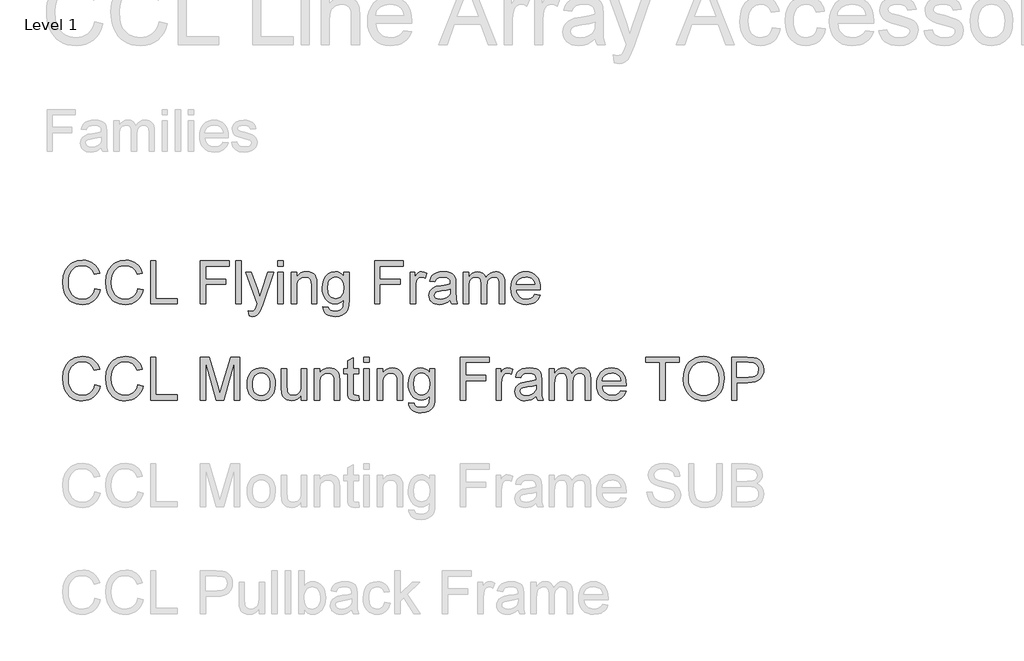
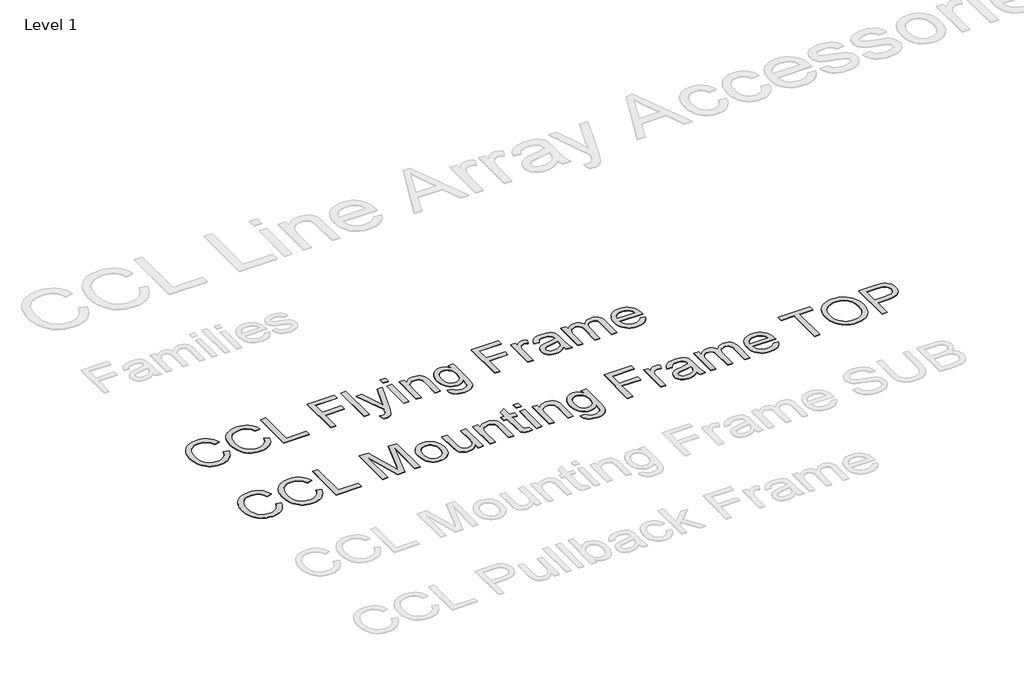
# One storey, part 5 of 31: 2 proxies.
"""IFC4 building model written with IfcOpenShell, lengths in millimetres."""

from ifc_helpers import new_model, si_unit, origin, origin_with_axes, place, context, project, spatial, polyline, outline, extrude, element, save

model = new_model("IFC4")

# Units and contexts
model_context = context("Model", 3, world=origin())
ifc_project = project(units=[si_unit("LENGTHUNIT", "METRE", prefix="MILLI")], contexts=[model_context])

# Site, building, storey
site = spatial("IfcSite", under=ifc_project)
building = spatial("IfcBuilding", under=site)
storey = spatial("IfcBuildingStorey", under=building, Name="Level 1", Elevation=0.0)

# Proxies
placement = place(None, origin())
element("IfcBuildingElementProxy", 1, Name="400mm Arial", ObjectType="400mm Arial", at=placement, inside=storey, context=model_context, shape_type="SweptSolid", body=[
    extrude(outline(polyline([(-20609.9461568, -14954.6815806), (-20559.7180017, -14967.6310268), (-20569.656947, -14998.8672739), (-20582.8945674, -15026.1610523), (-20599.4308631, -15049.5123619), (-20619.265834, -15068.9212029), (-20641.9518904, -15084.1791086), (-20667.0414425, -15095.0776127), (-20694.5344902, -15101.6167152), (-20724.4310337, -15103.796416), (-20755.0602755, -15102.1470784), (-20782.691279, -15097.1990655), (-20807.3240443, -15088.9523775), (-20828.9585713, -15077.4070142), (-20847.8922313, -15062.734654), (-20864.4223956, -15045.106975), (-20878.5490642, -15024.5239774), (-20890.2722371, -15000.9856611), (-20906.0543747, -14949.1142998), (-20911.3150873, -14893.5641185), (-20905.3676617, -14834.9727794), (-20897.9333797, -14808.6753481), (-20887.5253849, -14784.3767423), (-20874.3766693, -14762.4785666), (-20858.7202247, -14743.3824253), (-20840.5560512, -14727.0883186), (-20819.8841487, -14713.5962464), (-20797.4065588, -14703.0165734), (-20773.8253229, -14695.4596641), (-20723.3519132, -14689.4141366), (-20694.623395, -14691.3700426), (-20668.2799785, -14697.2377604), (-20644.3216636, -14707.0172901), (-20622.7484502, -14720.7086317), (-20603.9159578, -14737.9500345), (-20588.1798054, -14758.379748), (-20575.5399932, -14781.9977721), (-20565.9965211, -14808.8041068), (-20616.2246762, -14820.7725344), (-20633.6377573, -14784.1437504), (-20657.4274596, -14759.0174101), (-20687.8880888, -14744.4860713), (-20725.3139505, -14739.6422917), (-20768.4542458, -14745.0133688), (-20787.1365198, -14751.7272152), (-20803.8935447, -14761.1266002), (-20830.7857185, -14786.2897287), (-20848.2846387, -14818.8104971), (-20857.8863588, -14855.5741711), (-20861.0869322, -14893.4660166), (-20857.2977476, -14939.8681989), (-20845.930194, -14979.9918619), (-20826.5550756, -15012.3041638), (-20798.7431967, -15035.272263), (-20765.4008252, -15048.9942614), (-20729.4342288, -15053.5682609), (-20707.5973667, -15052.0108938), (-20687.5079441, -15047.3387925), (-20669.165961, -15039.5519569), (-20652.5714173, -15028.6503871), (-20638.1167206, -15014.683134), (-20626.1942783, -14997.6992486), (-20616.8040903, -14977.6987308), (-20609.9461568, -14954.6815806)])), origin_with_axes(), (0.0, 0.0, 1.0), 5.0),
    extrude(outline(polyline([(-20208.1209162, -14954.6815806), (-20157.8927611, -14967.6310268), (-20167.8317064, -14998.8672739), (-20181.0693268, -15026.1610523), (-20197.6056225, -15049.5123619), (-20217.4405934, -15068.9212029), (-20240.1266498, -15084.1791086), (-20265.2162019, -15095.0776127), (-20292.7092496, -15101.6167152), (-20322.6057931, -15103.796416), (-20353.2350349, -15102.1470784), (-20380.8660384, -15097.1990655), (-20405.4988037, -15088.9523775), (-20427.1333307, -15077.4070142), (-20446.0669907, -15062.734654), (-20462.597155, -15045.106975), (-20476.7238236, -15024.5239774), (-20488.4469965, -15000.9856611), (-20504.2291341, -14949.1142998), (-20509.4898467, -14893.5641185), (-20503.5424211, -14834.9727794), (-20496.1081391, -14808.6753481), (-20485.7001443, -14784.3767423), (-20472.5514287, -14762.4785666), (-20456.8949841, -14743.3824253), (-20438.7308106, -14727.0883186), (-20418.0589081, -14713.5962464), (-20395.5813182, -14703.0165734), (-20372.0000823, -14695.4596641), (-20321.5266726, -14689.4141366), (-20292.7981544, -14691.3700426), (-20266.4547379, -14697.2377604), (-20242.496423, -14707.0172901), (-20220.9232096, -14720.7086317), (-20202.0907172, -14737.9500345), (-20186.3545648, -14758.379748), (-20173.7147526, -14781.9977721), (-20164.1712805, -14808.8041068), (-20214.3994356, -14820.7725344), (-20231.8125167, -14784.1437504), (-20255.602219, -14759.0174101), (-20286.0628482, -14744.4860713), (-20323.4887099, -14739.6422917), (-20366.6290052, -14745.0133688), (-20385.3112792, -14751.7272152), (-20402.0683041, -14761.1266002), (-20428.9604779, -14786.2897287), (-20446.4593981, -14818.8104971), (-20456.0611182, -14855.5741711), (-20459.2616916, -14893.4660166), (-20455.472507, -14939.8681989), (-20444.1049534, -14979.9918619), (-20424.729835, -15012.3041638), (-20396.9179561, -15035.272263), (-20363.5755846, -15048.9942614), (-20327.6089882, -15053.5682609), (-20305.7721261, -15052.0108938), (-20285.6827035, -15047.3387925), (-20267.3407204, -15039.5519569), (-20250.7461767, -15028.6503871), (-20236.29148, -15014.683134), (-20224.3690377, -14997.6992486), (-20214.9788497, -14977.6987308), (-20208.1209162, -14954.6815806)])), origin_with_axes(), (0.0, 0.0, 1.0), 5.0),
    extrude(outline(polyline([(-20088.8290479, -15097.5178966), (-20088.8290479, -14695.692656), (-20038.6008928, -14695.692656), (-20038.6008928, -15047.2897415), (-19837.6882725, -15047.2897415), (-19837.6882725, -15097.5178966), (-20088.8290479, -15097.5178966)])), origin_with_axes(), (0.0, 0.0, 1.0), 5.0),
    extrude(outline(polyline([(-19624.2186135, -15097.5178966), (-19624.2186135, -14695.692656), (-19354.2422799, -14695.692656), (-19354.2422799, -14745.9208111), (-19573.9904584, -14745.9208111), (-19573.9904584, -14865.2126794), (-19385.6348769, -14865.2126794), (-19385.6348769, -14915.4408345), (-19573.9904584, -14915.4408345), (-19573.9904584, -15097.5178966), (-19624.2186135, -15097.5178966)])), origin_with_axes(), (0.0, 0.0, 1.0), 5.0),
    extrude(outline(polyline([(-19291.4570861, -15097.5178966), (-19291.4570861, -14695.692656), (-19241.228931, -14695.692656), (-19241.228931, -15097.5178966), (-19291.4570861, -15097.5178966)])), origin_with_axes(), (0.0, 0.0, 1.0), 5.0),
    extrude(outline(polyline([(-19165.8866984, -15210.5312455), (-19172.1652178, -15162.1670259), (-19146.6587328, -15166.5816098), (-19133.2433027, -15165.195921), (-19122.8199795, -15161.0388544), (-19108.2028016, -15145.5878106), (-19094.4685404, -15108.6034074), (-19090.5444658, -15096.4387761), (-19197.2792953, -14802.4274855), (-19144.4023899, -14802.4274855), (-19087.6995117, -14966.3557026), (-19067.9810368, -15031.8877487), (-19048.2625618, -14973.9095462), (-18990.0881556, -14802.4274855), (-18937.6036577, -14802.4274855), (-19040.3163107, -15104.5812309), (-19067.0000181, -15170.113277), (-19080.6607029, -15191.0334998), (-19096.1362721, -15205.5280504), (-19114.0889135, -15213.9893363), (-19135.1808145, -15216.8097649), (-19165.8866984, -15210.5312455)])), origin_with_axes(), (0.0, 0.0, 1.0), 5.0),
    extrude(outline(polyline([(-18895.9103649, -15097.5178966), (-18895.9103649, -14802.4274855), (-18845.6822098, -14802.4274855), (-18845.6822098, -15097.5178966), (-18895.9103649, -15097.5178966)])), origin_with_axes(), (0.0, 0.0, 1.0), 5.0),
    extrude(outline(polyline([(-18895.9103649, -14745.9208111), (-18895.9103649, -14695.692656), (-18845.6822098, -14695.692656), (-18845.6822098, -14745.9208111), (-18895.9103649, -14745.9208111)])), origin_with_axes(), (0.0, 0.0, 1.0), 5.0),
    extrude(outline(polyline([(-18770.3399772, -15097.5178966), (-18770.3399772, -14802.4274855), (-18720.1118221, -14802.4274855), (-18720.1118221, -14843.630269), (-18702.6619528, -14822.857199), (-18681.7049418, -14808.0192919), (-18657.2407891, -14799.1165476), (-18629.2694948, -14796.1489662), (-18604.5110365, -14798.5401991), (-18581.8372429, -14805.713898), (-18562.9281083, -14816.7748834), (-18549.4636273, -14830.8279756), (-18540.3278911, -14847.8363865), (-18534.4049909, -14867.7633279), (-18531.7562406, -14916.3237513), (-18531.7562406, -15097.5178966), (-18581.9843957, -15097.5178966), (-18581.9843957, -14923.09278), (-18583.4313982, -14897.1203111), (-18587.7724057, -14878.6526349), (-18595.7799705, -14865.4211459), (-18608.2266446, -14855.1572382), (-18624.1804605, -14848.5721505), (-18642.7094503, -14846.3771212), (-18672.1277472, -14851.30674), (-18697.2050365, -14866.0955962), (-18707.2267552, -14878.168257), (-18714.3851257, -14894.6677645), (-18718.680148, -14915.5941186), (-18720.1118221, -14940.9473195), (-18720.1118221, -15097.5178966), (-18770.3399772, -15097.5178966)])), origin_with_axes(), (0.0, 0.0, 1.0), 5.0),
    extrude(outline(polyline([(-18475.2495661, -15122.6319741), (-18425.021411, -15128.9104935), (-18419.4786557, -15144.606792), (-18408.7365014, -15155.3979972), (-18387.6200749, -15163.7857067), (-18359.9798743, -15166.5816098), (-18330.5002638, -15163.4178247), (-18308.5744968, -15153.9264692), (-18293.3687077, -15138.7206801), (-18284.0490305, -15118.4135939), (-18280.6154652, -15059.8467803), (-18297.3295705, -15076.3278937), (-18315.9811877, -15088.1001175), (-18336.5703167, -15095.1634518), (-18359.0969575, -15097.5178966), (-18386.6359905, -15094.7771757), (-18410.8824797, -15086.5550132), (-18431.836425, -15072.8514088), (-18449.4978265, -15053.6663628), (-18463.5110648, -15030.6492126), (-18473.5205207, -15005.4492959), (-18479.5261943, -14978.0666128), (-18481.5280855, -14948.5011631), (-18477.9351047, -14907.9483045), (-18467.1561622, -14870.6573329), (-18449.5714029, -14839.0562695), (-18425.5609713, -14815.5731355), (-18395.9464707, -14801.0050085), (-18361.5495041, -14796.1489662), (-18338.0602388, -14798.8958184), (-18316.7414771, -14807.1363751), (-18297.5932193, -14820.8706362), (-18280.6154652, -14840.0986019), (-18280.6154652, -14802.4274855), (-18230.3873101, -14802.4274855), (-18230.3873101, -15057.1980299), (-18233.8208754, -15116.022361), (-18244.1215713, -15154.7603351), (-18261.8657462, -15180.4507611), (-18287.6297486, -15200.1324478), (-18320.8494927, -15212.6404356), (-18360.960893, -15216.8097649), (-18385.5691327, -15215.3413026), (-18407.6941691, -15210.9359157), (-18427.3360019, -15203.5936042), (-18444.4946313, -15193.3143682), (-18458.3545855, -15180.0859447), (-18468.1003927, -15163.8960713), (-18473.7320529, -15144.7447477), (-18475.2495661, -15122.6319741)]), holes=[polyline([(-18431.2999304, -14945.0675978), (-18425.941116, -14991.1386863), (-18419.242598, -15008.7755623), (-18409.8646728, -15022.8133261), (-18398.4633967, -15033.5217579), (-18385.6948258, -15041.1706377), (-18371.5589601, -15045.7599656), (-18356.0557997, -15047.2897415), (-18340.7059234, -15045.7691626), (-18326.6375028, -15041.2074259), (-18313.8505378, -15033.6045313), (-18302.3450284, -15022.9604789), (-18292.8383445, -15009.0606709), (-18286.047856, -14991.6905093), (-18280.6154652, -14946.5391258), (-18286.2072715, -14902.9941603), (-18293.1970294, -14885.7926113), (-18302.9826905, -14871.6383516), (-18314.7365203, -14860.5865633), (-18327.6307842, -14852.6924288), (-18341.6654823, -14847.9559481), (-18356.8406146, -14846.3771212), (-18371.7612952, -14847.9314227), (-18385.5231475, -14852.594327), (-18409.5703672, -14871.2459441), (-18419.0770511, -14885.185606), (-18425.8675396, -14902.135769), (-18431.2999304, -14945.0675978)])]), origin_with_axes(), (0.0, 0.0, 1.0), 5.0),
    extrude(outline(polyline([(-17991.8035735, -15097.5178966), (-17991.8035735, -14695.692656), (-17721.82724, -14695.692656), (-17721.82724, -14745.9208111), (-17941.5754185, -14745.9208111), (-17941.5754185, -14865.2126794), (-17753.2198369, -14865.2126794), (-17753.2198369, -14915.4408345), (-17941.5754185, -14915.4408345), (-17941.5754185, -15097.5178966), (-17991.8035735, -15097.5178966)])), origin_with_axes(), (0.0, 0.0, 1.0), 5.0),
    extrude(outline(polyline([(-17659.0420462, -15097.5178966), (-17659.0420462, -14802.4274855), (-17615.0924105, -14802.4274855), (-17615.0924105, -14846.0828156), (-17598.8565517, -14820.7725344), (-17583.8960173, -14805.8610508), (-17568.8864319, -14798.5769873), (-17552.5034204, -14796.1489662), (-17527.4874447, -14800.0239898), (-17502.0790615, -14811.6490609), (-17518.8544805, -14856.6778171), (-17536.5128163, -14848.9522952), (-17554.1711521, -14846.3771212), (-17569.1684747, -14848.8541933), (-17582.5716421, -14856.2854096), (-17593.3996355, -14868.1066844), (-17600.6714363, -14883.7539319), (-17606.7782774, -14911.8110654), (-17608.8138911, -14942.4188474), (-17608.8138911, -15097.5178966), (-17659.0420462, -15097.5178966)])), origin_with_axes(), (0.0, 0.0, 1.0), 5.0),
    extrude(outline(polyline([(-17282.3308831, -15059.8467803), (-17306.3290519, -15080.4236466), (-17331.0384593, -15093.8881276), (-17357.0231908, -15101.3193439), (-17384.8473324, -15103.796416), (-17407.211492, -15102.3064939), (-17426.8226681, -15097.8367277), (-17443.6808605, -15090.3871173), (-17457.7860693, -15079.9576627), (-17468.9236967, -15067.2105516), (-17476.8791449, -15052.8079715), (-17481.6524138, -15036.7499224), (-17483.2435034, -15019.0364043), (-17480.8400077, -14998.2142834), (-17473.6295206, -14979.3051488), (-17462.5072216, -14963.118341), (-17448.3682903, -14950.4632004), (-17431.7522868, -14940.8982685), (-17413.1987715, -14933.982087), (-17369.7396451, -14926.4282434), (-17318.3833186, -14918.4819923), (-17282.6251887, -14909.1623151), (-17282.3308831, -14897.9787024), (-17285.7889739, -14875.5624262), (-17296.1632461, -14860.8961973), (-17319.3643373, -14850.0068903), (-17351.6889019, -14846.3771212), (-17381.6099709, -14848.7928797), (-17402.5056682, -14856.040155), (-17416.7549641, -14869.4433223), (-17426.7368289, -14890.3267569), (-17476.964984, -14884.0482375), (-17468.2461807, -14856.5797152), (-17455.2354208, -14834.9973049), (-17436.7186937, -14818.491666), (-17411.4819889, -14806.2534583), (-17380.6166895, -14798.6750892), (-17345.2141788, -14796.1489662), (-17311.2586706, -14798.3807836), (-17284.3419713, -14805.0762359), (-17264.0471479, -14815.1439398), (-17249.9572675, -14827.4925121), (-17240.6130648, -14842.7596149), (-17234.5552747, -14861.5829104), (-17232.102728, -14905.5325461), (-17232.102728, -14968.0234343), (-17229.5520795, -15055.2850436), (-17219.5456893, -15097.5178966), (-17269.7738443, -15097.5178966), (-17277.8181973, -15080.0557646), (-17282.3308831, -15059.8467803)]), holes=[polyline([(-17282.3308831, -14959.3904702), (-17316.0779248, -14967.7536542), (-17363.3630239, -14974.792463), (-17406.5768956, -14982.9349178), (-17417.8218219, -14988.5021987), (-17426.1482177, -14996.1786697), (-17431.2985657, -15005.3757195), (-17433.0153483, -15015.5047372), (-17429.2752147, -15030.4407462), (-17418.0548138, -15042.6789539), (-17399.5994004, -15050.8459342), (-17374.1542291, -15053.5682609), (-17347.1762161, -15050.5638913), (-17323.3374628, -15041.5507824), (-17304.0113953, -15028.2702424), (-17290.5714398, -15012.4635793), (-17284.6117515, -14996.1786697), (-17282.6251887, -14973.6152406), (-17282.3308831, -14959.3904702)])]), origin_with_axes(), (0.0, 0.0, 1.0), 5.0),
    extrude(outline(polyline([(-17163.0390148, -15097.5178966), (-17163.0390148, -14802.4274855), (-17112.8108597, -14802.4274855), (-17112.8108597, -14850.9879089), (-17097.7031724, -14828.6819973), (-17078.2790031, -14811.2076025), (-17055.2005393, -14799.9136252), (-17029.1299685, -14796.1489662), (-17001.1954624, -14799.9872016), (-16978.8037116, -14811.5019081), (-16962.0773436, -14829.9327961), (-16951.1389856, -14854.5195761), (-16932.8307249, -14828.9824342), (-16911.9472904, -14810.7416186), (-16888.4886818, -14799.7971293), (-16862.4548993, -14796.1489662), (-16842.3470825, -14797.6664794), (-16824.6979438, -14802.2190191), (-16809.5074831, -14809.8065852), (-16796.7757004, -14820.4291778), (-16786.7110621, -14834.2094242), (-16779.5220348, -14851.2699518), (-16775.2086184, -14871.6107604), (-16773.770813, -14895.2318502), (-16773.770813, -15097.5178966), (-16823.998968, -15097.5178966), (-16823.998968, -14916.8142606), (-16825.1639277, -14891.7614967), (-16828.6588066, -14874.8757131), (-16835.2071062, -14863.3119557), (-16845.5323275, -14854.2252705), (-16858.8128675, -14848.3391585), (-16874.2271231, -14846.3771212), (-16901.438128, -14851.4048418), (-16923.6214123, -14866.4880036), (-16932.2267853, -14878.0578924), (-16938.3734803, -14892.6566762), (-16943.2908363, -14930.9409292), (-16943.2908363, -15097.5178966), (-16993.5189914, -15097.5178966), (-16993.5189914, -14911.2224543), (-16996.4252592, -14882.8219642), (-17005.1440625, -14862.563929), (-17020.4847417, -14850.4238232), (-17043.2566372, -14846.3771212), (-17062.6072301, -14849.0749225), (-17080.4372441, -14857.1683264), (-17095.1525239, -14870.4611292), (-17105.1589142, -14888.7571271), (-17110.8978733, -14914.1409847), (-17112.8108597, -14948.6973668), (-17112.8108597, -15097.5178966), (-17163.0390148, -15097.5178966)])), origin_with_axes(), (0.0, 0.0, 1.0), 5.0),
    extrude(outline(polyline([(-16491.8260519, -15009.6186252), (-16442.5789154, -15015.8971446), (-16450.1296934, -15035.6217509), (-16460.3230903, -15053.0041752), (-16473.1591063, -15068.0444174), (-16488.6377412, -15080.7424776), (-16506.5995796, -15090.8285757), (-16526.885206, -15098.0329314), (-16574.4278225, -15103.796416), (-16605.5935589, -15101.3101468), (-16633.3625181, -15093.8513394), (-16657.7347003, -15081.4199936), (-16678.7101054, -15064.0161096), (-16695.5774949, -15042.1240652), (-16707.6256302, -15016.2282384), (-16714.8545114, -14986.3286292), (-16717.2641385, -14952.4252377), (-16714.829986, -14917.3722149), (-16707.5275284, -14886.4762587), (-16695.3567657, -14859.737369), (-16678.3176979, -14837.1555459), (-16657.3974752, -14819.2151673), (-16633.5832473, -14806.4006111), (-16606.8750145, -14798.7118774), (-16577.2727766, -14796.1489662), (-16548.6239662, -14798.705746), (-16522.7158767, -14806.3760856), (-16499.5485081, -14819.159985), (-16479.1218603, -14837.057444), (-16462.4476089, -14859.5902162), (-16450.5374293, -14886.280055), (-16443.3913215, -14917.1269603), (-16441.0092856, -14952.1309321), (-16441.3035912, -14965.6689895), (-16667.0359834, -14965.6689895), (-16664.12665, -14985.7124269), (-16658.3417056, -15003.2665294), (-16649.6811503, -15018.3312971), (-16638.1449841, -15030.90673), (-16624.370869, -15040.8211498), (-16608.9964673, -15047.9028782), (-16573.4468039, -15053.5682609), (-16546.7140455, -15050.944036), (-16524.1996674, -15043.0713613), (-16505.9036695, -15029.4597275), (-16491.8260519, -15009.6186252)]), holes=[polyline([(-16667.0359834, -14915.4408345), (-16491.2374407, -14915.4408345), (-16498.0309948, -14888.9042799), (-16511.3483231, -14869.9215689), (-16525.045796, -14859.6208731), (-16540.6317299, -14852.2632332), (-16558.1061247, -14847.8486492), (-16577.4689803, -14846.3771212), (-16611.3263866, -14851.073748), (-16639.3222065, -14865.1636285), (-16658.783164, -14887.1261836), (-16667.0359834, -14915.4408345)])]), origin_with_axes(), (0.0, 0.0, 1.0), 5.0),
])
element("IfcBuildingElementProxy", 2, Name="400mm Arial", ObjectType="400mm Arial", at=placement, inside=storey, context=model_context, shape_type="SweptSolid", body=[
    extrude(outline(polyline([(-20609.9461568, -15854.6815806), (-20559.7180017, -15867.6310268), (-20569.656947, -15898.8672739), (-20582.8945674, -15926.1610523), (-20599.4308631, -15949.5123619), (-20619.265834, -15968.9212029), (-20641.9518904, -15984.1791086), (-20667.0414425, -15995.0776127), (-20694.5344902, -16001.6167152), (-20724.4310337, -16003.796416), (-20755.0602755, -16002.1470784), (-20782.691279, -15997.1990655), (-20807.3240443, -15988.9523775), (-20828.9585713, -15977.4070142), (-20847.8922313, -15962.734654), (-20864.4223956, -15945.106975), (-20878.5490642, -15924.5239774), (-20890.2722371, -15900.9856611), (-20906.0543747, -15849.1142998), (-20911.3150873, -15793.5641185), (-20905.3676617, -15734.9727794), (-20897.9333797, -15708.6753481), (-20887.5253849, -15684.3767423), (-20874.3766693, -15662.4785666), (-20858.7202247, -15643.3824253), (-20840.5560512, -15627.0883186), (-20819.8841487, -15613.5962464), (-20797.4065588, -15603.0165734), (-20773.8253229, -15595.4596641), (-20723.3519132, -15589.4141366), (-20694.623395, -15591.3700426), (-20668.2799785, -15597.2377604), (-20644.3216636, -15607.0172901), (-20622.7484502, -15620.7086317), (-20603.9159578, -15637.9500345), (-20588.1798054, -15658.379748), (-20575.5399932, -15681.9977721), (-20565.9965211, -15708.8041068), (-20616.2246762, -15720.7725344), (-20633.6377573, -15684.1437504), (-20657.4274596, -15659.0174101), (-20687.8880888, -15644.4860713), (-20725.3139505, -15639.6422917), (-20768.4542458, -15645.0133688), (-20787.1365198, -15651.7272152), (-20803.8935447, -15661.1266002), (-20830.7857185, -15686.2897287), (-20848.2846387, -15718.8104971), (-20857.8863588, -15755.5741711), (-20861.0869322, -15793.4660166), (-20857.2977476, -15839.8681989), (-20845.930194, -15879.9918619), (-20826.5550756, -15912.3041638), (-20798.7431967, -15935.272263), (-20765.4008252, -15948.9942614), (-20729.4342288, -15953.5682609), (-20707.5973667, -15952.0108938), (-20687.5079441, -15947.3387925), (-20669.165961, -15939.5519569), (-20652.5714173, -15928.6503871), (-20638.1167206, -15914.683134), (-20626.1942783, -15897.6992486), (-20616.8040903, -15877.6987308), (-20609.9461568, -15854.6815806)])), origin_with_axes(), (0.0, 0.0, 1.0), 5.0),
    extrude(outline(polyline([(-20208.1209162, -15854.6815806), (-20157.8927611, -15867.6310268), (-20167.8317064, -15898.8672739), (-20181.0693268, -15926.1610523), (-20197.6056225, -15949.5123619), (-20217.4405934, -15968.9212029), (-20240.1266498, -15984.1791086), (-20265.2162019, -15995.0776127), (-20292.7092496, -16001.6167152), (-20322.6057931, -16003.796416), (-20353.2350349, -16002.1470784), (-20380.8660384, -15997.1990655), (-20405.4988037, -15988.9523775), (-20427.1333307, -15977.4070142), (-20446.0669907, -15962.734654), (-20462.597155, -15945.106975), (-20476.7238236, -15924.5239774), (-20488.4469965, -15900.9856611), (-20504.2291341, -15849.1142998), (-20509.4898467, -15793.5641185), (-20503.5424211, -15734.9727794), (-20496.1081391, -15708.6753481), (-20485.7001443, -15684.3767423), (-20472.5514287, -15662.4785666), (-20456.8949841, -15643.3824253), (-20438.7308106, -15627.0883186), (-20418.0589081, -15613.5962464), (-20395.5813182, -15603.0165734), (-20372.0000823, -15595.4596641), (-20321.5266726, -15589.4141366), (-20292.7981544, -15591.3700426), (-20266.4547379, -15597.2377604), (-20242.496423, -15607.0172901), (-20220.9232096, -15620.7086317), (-20202.0907172, -15637.9500345), (-20186.3545648, -15658.379748), (-20173.7147526, -15681.9977721), (-20164.1712805, -15708.8041068), (-20214.3994356, -15720.7725344), (-20231.8125167, -15684.1437504), (-20255.602219, -15659.0174101), (-20286.0628482, -15644.4860713), (-20323.4887099, -15639.6422917), (-20366.6290052, -15645.0133688), (-20385.3112792, -15651.7272152), (-20402.0683041, -15661.1266002), (-20428.9604779, -15686.2897287), (-20446.4593981, -15718.8104971), (-20456.0611182, -15755.5741711), (-20459.2616916, -15793.4660166), (-20455.472507, -15839.8681989), (-20444.1049534, -15879.9918619), (-20424.729835, -15912.3041638), (-20396.9179561, -15935.272263), (-20363.5755846, -15948.9942614), (-20327.6089882, -15953.5682609), (-20305.7721261, -15952.0108938), (-20285.6827035, -15947.3387925), (-20267.3407204, -15939.5519569), (-20250.7461767, -15928.6503871), (-20236.29148, -15914.683134), (-20224.3690377, -15897.6992486), (-20214.9788497, -15877.6987308), (-20208.1209162, -15854.6815806)])), origin_with_axes(), (0.0, 0.0, 1.0), 5.0),
    extrude(outline(polyline([(-20088.8290479, -15997.5178966), (-20088.8290479, -15595.692656), (-20038.6008928, -15595.692656), (-20038.6008928, -15947.2897415), (-19837.6882725, -15947.2897415), (-19837.6882725, -15997.5178966), (-20088.8290479, -15997.5178966)])), origin_with_axes(), (0.0, 0.0, 1.0), 5.0),
    extrude(outline(polyline([(-19624.2186135, -15997.5178966), (-19624.2186135, -15595.692656), (-19538.0851757, -15595.692656), (-19455.6796087, -15878.9127414), (-19439.0022916, -15938.0681662), (-19421.0496503, -15874.0076481), (-19340.2137132, -15595.692656), (-19253.7859698, -15595.692656), (-19253.7859698, -15997.5178966), (-19304.0141249, -15997.5178966), (-19304.0141249, -15645.9208111), (-19404.9609443, -15997.5178966), (-19472.945537, -15997.5178966), (-19573.9904584, -15645.9208111), (-19573.9904584, -15997.5178966), (-19624.2186135, -15997.5178966)])), origin_with_axes(), (0.0, 0.0, 1.0), 5.0),
    extrude(outline(polyline([(-19184.7222566, -15849.9726911), (-19182.0060612, -15811.7558831), (-19173.857475, -15778.8243132), (-19160.276498, -15751.1779813), (-19141.2631302, -15728.8168873), (-19122.1210037, -15714.5246718), (-19100.9923145, -15704.3159465), (-19077.8770624, -15698.1907112), (-19052.7752476, -15696.1489662), (-19025.0645363, -15698.6352353), (-19000.0087068, -15706.0940428), (-18977.607759, -15718.5253885), (-18957.8616929, -15735.9292726), (-18941.7453958, -15757.7170837), (-18930.233755, -15783.3002108), (-18923.3267706, -15812.6786538), (-18921.0244424, -15845.8524127), (-18925.0956698, -15896.5956026), (-18937.3093521, -15935.2232121), (-18957.3098699, -15964.1509996), (-18984.741604, -15985.7947237), (-19017.323686, -15999.2959929), (-19052.7752476, -16003.796416), (-19080.8906291, -16001.3193439), (-19106.1794506, -15993.8881276), (-19128.6417121, -15981.5027671), (-19148.2774136, -15964.1632624), (-19164.2220324, -15942.1639191), (-19175.6110458, -15915.7990427), (-19182.4444539, -15885.0686334), (-19184.7222566, -15849.9726911)]), holes=[polyline([(-19134.4941015, -15849.8745892), (-19133.0409676, -15874.2375743), (-19128.681566, -15895.3325411), (-19121.4158966, -15913.1594894), (-19111.2439594, -15927.7184194), (-19098.8708616, -15939.0277251), (-19085.0017104, -15947.1058005), (-19069.6365057, -15951.9526458), (-19052.7752476, -15953.5682609), (-19035.9998286, -15951.9434488), (-19020.6959376, -15947.0690123), (-19006.8635746, -15938.9449516), (-18994.5027396, -15927.5712666), (-18984.3308024, -15912.8682495), (-18977.065133, -15894.7561926), (-18972.7057314, -15873.2350959), (-18971.2525975, -15848.3049594), (-18972.7149284, -15824.7145264), (-18977.1019212, -15804.1713827), (-18984.4135759, -15786.6755281), (-18994.6498924, -15772.2269628), (-19007.0567127, -15760.9176571), (-19020.8798786, -15752.8395816), (-19036.1193903, -15747.9927363), (-19052.7752476, -15746.3771212), (-19069.6365057, -15747.986605), (-19085.0017104, -15752.8150561), (-19098.8708616, -15760.8624748), (-19111.2439594, -15772.1288609), (-19121.4158966, -15786.6448713), (-19128.681566, -15804.4411628), (-19133.0409676, -15825.5177354), (-19134.4941015, -15849.8745892)])]), origin_with_axes(), (0.0, 0.0, 1.0), 5.0),
    extrude(outline(polyline([(-18676.1621864, -15997.5178966), (-18676.1621864, -15946.7992322), (-18694.335557, -15971.7355001), (-18715.5010344, -15989.54712), (-18739.6586188, -16000.234092), (-18766.80831, -16003.796416), (-18791.2724627, -16001.2948184), (-18814.0443582, -15993.7900257), (-18833.1496965, -15982.5083112), (-18846.6141775, -15968.6759482), (-18855.6763373, -15951.8760037), (-18861.574712, -15931.6915449), (-18864.517768, -15884.995057), (-18864.517768, -15702.4274855), (-18814.2896129, -15702.4274855), (-18814.2896129, -15861.3525075), (-18811.2484551, -15912.5616812), (-18803.9276033, -15929.6436685), (-18791.3828273, -15942.6299029), (-18774.4479928, -15950.8336714), (-18753.9569657, -15953.5682609), (-18732.2887162, -15950.7723578), (-18712.0184182, -15942.3846483), (-18695.3043129, -15929.1776846), (-18684.3046412, -15911.9240191), (-18678.1978001, -15888.2937322), (-18676.1621864, -15855.9569049), (-18676.1621864, -15702.4274855), (-18625.9340313, -15702.4274855), (-18625.9340313, -15997.5178966), (-18676.1621864, -15997.5178966)])), origin_with_axes(), (0.0, 0.0, 1.0), 5.0),
    extrude(outline(polyline([(-18556.8703181, -15997.5178966), (-18556.8703181, -15702.4274855), (-18506.642163, -15702.4274855), (-18506.642163, -15743.630269), (-18489.1922937, -15722.857199), (-18468.2352827, -15708.0192919), (-18443.7711301, -15699.1165476), (-18415.7998357, -15696.1489662), (-18391.0413774, -15698.5401991), (-18368.3675838, -15705.713898), (-18349.4584492, -15716.7748834), (-18335.9939682, -15730.8279756), (-18326.858232, -15747.8363865), (-18320.9353319, -15767.7633279), (-18318.2865815, -15816.3237513), (-18318.2865815, -15997.5178966), (-18368.5147366, -15997.5178966), (-18368.5147366, -15823.09278), (-18369.9617391, -15797.1203111), (-18374.3027466, -15778.6526349), (-18382.3103114, -15765.4211459), (-18394.7569856, -15755.1572382), (-18410.7108014, -15748.5721505), (-18429.2397913, -15746.3771212), (-18458.6580881, -15751.30674), (-18483.7353775, -15766.0955962), (-18493.7570962, -15778.168257), (-18500.9154667, -15794.6677645), (-18505.2104889, -15815.5941186), (-18506.642163, -15840.9473195), (-18506.642163, -15997.5178966), (-18556.8703181, -15997.5178966)])), origin_with_axes(), (0.0, 0.0, 1.0), 5.0),
    extrude(outline(polyline([(-18142.4880388, -15955.6284001), (-18136.2095194, -15998.9894246), (-18173.7825338, -16003.796416), (-18197.8910672, -16001.7117514), (-18215.8682341, -15995.4577574), (-18228.5724256, -15985.8192492), (-18236.8620332, -15973.5810415), (-18241.42377, -15952.5627168), (-18242.9443489, -15916.5838577), (-18242.9443489, -15752.6556406), (-18280.6154652, -15752.6556406), (-18280.6154652, -15702.4274855), (-18242.9443489, -15702.4274855), (-18242.9443489, -15630.715022), (-18192.7161938, -15601.1863605), (-18192.7161938, -15702.4274855), (-18142.4880388, -15702.4274855), (-18142.4880388, -15752.6556406), (-18192.7161938, -15752.6556406), (-18192.7161938, -15915.1123297), (-18190.0674435, -15941.0112221), (-18181.4835302, -15950.1837466), (-18164.3647547, -15953.5682609), (-18142.4880388, -15955.6284001)])), origin_with_axes(), (0.0, 0.0, 1.0), 5.0),
    extrude(outline(polyline([(-18092.2598837, -15997.5178966), (-18092.2598837, -15702.4274855), (-18042.0317286, -15702.4274855), (-18042.0317286, -15997.5178966), (-18092.2598837, -15997.5178966)])), origin_with_axes(), (0.0, 0.0, 1.0), 5.0),
    extrude(outline(polyline([(-18092.2598837, -15645.9208111), (-18092.2598837, -15595.692656), (-18042.0317286, -15595.692656), (-18042.0317286, -15645.9208111), (-18092.2598837, -15645.9208111)])), origin_with_axes(), (0.0, 0.0, 1.0), 5.0),
    extrude(outline(polyline([(-17966.689496, -15997.5178966), (-17966.689496, -15702.4274855), (-17916.4613409, -15702.4274855), (-17916.4613409, -15743.630269), (-17899.0114716, -15722.857199), (-17878.0544606, -15708.0192919), (-17853.5903079, -15699.1165476), (-17825.6190136, -15696.1489662), (-17800.8605553, -15698.5401991), (-17778.1867617, -15705.713898), (-17759.2776271, -15716.7748834), (-17745.8131461, -15730.8279756), (-17736.6774099, -15747.8363865), (-17730.7545097, -15767.7633279), (-17728.1057594, -15816.3237513), (-17728.1057594, -15997.5178966), (-17778.3339145, -15997.5178966), (-17778.3339145, -15823.09278), (-17779.780917, -15797.1203111), (-17784.1219245, -15778.6526349), (-17792.1294893, -15765.4211459), (-17804.5761634, -15755.1572382), (-17820.5299793, -15748.5721505), (-17839.0589691, -15746.3771212), (-17868.477266, -15751.30674), (-17893.5545553, -15766.0955962), (-17903.576274, -15778.168257), (-17910.7346445, -15794.6677645), (-17915.0296668, -15815.5941186), (-17916.4613409, -15840.9473195), (-17916.4613409, -15997.5178966), (-17966.689496, -15997.5178966)])), origin_with_axes(), (0.0, 0.0, 1.0), 5.0),
    extrude(outline(polyline([(-17671.5990849, -16022.6319741), (-17621.3709299, -16028.9104935), (-17615.8281745, -16044.606792), (-17605.0860202, -16055.3979972), (-17583.9695937, -16063.7857067), (-17556.3293931, -16066.5816098), (-17526.8497826, -16063.4178247), (-17504.9240156, -16053.9264692), (-17489.7182265, -16038.7206801), (-17480.3985493, -16018.4135939), (-17476.964984, -15959.8467803), (-17493.6790893, -15976.3278937), (-17512.3307065, -15988.1001175), (-17532.9198355, -15995.1634518), (-17555.4464763, -15997.5178966), (-17582.9855093, -15994.7771757), (-17607.2319985, -15986.5550132), (-17628.1859438, -15972.8514088), (-17645.8473453, -15953.6663628), (-17659.8605836, -15930.6492126), (-17669.8700395, -15905.4492959), (-17675.8757131, -15878.0666128), (-17677.8776043, -15848.5011631), (-17674.2846235, -15807.9483045), (-17663.505681, -15770.6573329), (-17645.9209217, -15739.0562695), (-17621.9104901, -15715.5731355), (-17592.2959895, -15701.0050085), (-17557.8990229, -15696.1489662), (-17534.4097576, -15698.8958184), (-17513.0909959, -15707.1363751), (-17493.9427381, -15720.8706362), (-17476.964984, -15740.0986019), (-17476.964984, -15702.4274855), (-17426.7368289, -15702.4274855), (-17426.7368289, -15957.1980299), (-17430.1703942, -16016.022361), (-17440.4710901, -16054.7603351), (-17458.215265, -16080.4507611), (-17483.9792674, -16100.1324478), (-17517.1990115, -16112.6404356), (-17557.3104118, -16116.8097649), (-17581.9186516, -16115.3413026), (-17604.0436879, -16110.9359157), (-17623.6855207, -16103.5936042), (-17640.8441501, -16093.3143682), (-17654.7041043, -16080.0859447), (-17664.4499115, -16063.8960713), (-17670.0815717, -16044.7447477), (-17671.5990849, -16022.6319741)]), holes=[polyline([(-17627.6494492, -15845.0675978), (-17622.2906348, -15891.1386863), (-17615.5921168, -15908.7755623), (-17606.2141916, -15922.8133261), (-17594.8129155, -15933.5217579), (-17582.0443446, -15941.1706377), (-17567.9084789, -15945.7599656), (-17552.4053185, -15947.2897415), (-17537.0554422, -15945.7691626), (-17522.9870216, -15941.2074259), (-17510.2000566, -15933.6045313), (-17498.6945472, -15922.9604789), (-17489.1878633, -15909.0606709), (-17482.3973748, -15891.6905093), (-17476.964984, -15846.5391258), (-17482.5567903, -15802.9941603), (-17489.5465482, -15785.7926113), (-17499.3322093, -15771.6383516), (-17511.0860391, -15760.5865633), (-17523.980303, -15752.6924288), (-17538.0150011, -15747.9559481), (-17553.1901334, -15746.3771212), (-17568.110814, -15747.9314227), (-17581.8726663, -15752.594327), (-17605.9198861, -15771.2459441), (-17615.4265699, -15785.185606), (-17622.2170584, -15802.135769), (-17627.6494492, -15845.0675978)])]), origin_with_axes(), (0.0, 0.0, 1.0), 5.0),
    extrude(outline(polyline([(-17188.1530923, -15997.5178966), (-17188.1530923, -15595.692656), (-16918.1767588, -15595.692656), (-16918.1767588, -15645.9208111), (-17137.9249373, -15645.9208111), (-17137.9249373, -15765.2126794), (-16949.5693557, -15765.2126794), (-16949.5693557, -15815.4408345), (-17137.9249373, -15815.4408345), (-17137.9249373, -15997.5178966), (-17188.1530923, -15997.5178966)])), origin_with_axes(), (0.0, 0.0, 1.0), 5.0),
    extrude(outline(polyline([(-16855.391565, -15997.5178966), (-16855.391565, -15702.4274855), (-16811.4419293, -15702.4274855), (-16811.4419293, -15746.0828156), (-16795.2060705, -15720.7725344), (-16780.2455361, -15705.8610508), (-16765.2359507, -15698.5769873), (-16748.8529392, -15696.1489662), (-16723.8369635, -15700.0239898), (-16698.4285804, -15711.6490609), (-16715.2039993, -15756.6778171), (-16732.8623351, -15748.9522952), (-16750.5206709, -15746.3771212), (-16765.5179935, -15748.8541933), (-16778.9211609, -15756.2854096), (-16789.7491543, -15768.1066844), (-16797.0209551, -15783.7539319), (-16803.1277962, -15811.8110654), (-16805.1634099, -15842.4188474), (-16805.1634099, -15997.5178966), (-16855.391565, -15997.5178966)])), origin_with_axes(), (0.0, 0.0, 1.0), 5.0),
    extrude(outline(polyline([(-16478.6804019, -15959.8467803), (-16502.6785707, -15980.4236466), (-16527.3879781, -15993.8881276), (-16553.3727097, -16001.3193439), (-16581.1968512, -16003.796416), (-16603.5610108, -16002.3064939), (-16623.1721869, -15997.8367277), (-16640.0303793, -15990.3871173), (-16654.1355881, -15979.9576627), (-16665.2732155, -15967.2105516), (-16673.2286637, -15952.8079715), (-16678.0019326, -15936.7499224), (-16679.5930222, -15919.0364043), (-16677.1895265, -15898.2142834), (-16669.9790394, -15879.3051488), (-16658.8567404, -15863.118341), (-16644.7178091, -15850.4632004), (-16628.1018056, -15840.8982685), (-16609.5482903, -15833.982087), (-16566.089164, -15826.4282434), (-16514.7328374, -15818.4819923), (-16478.9747075, -15809.1623151), (-16478.6804019, -15797.9787024), (-16482.1384927, -15775.5624262), (-16492.5127649, -15760.8961973), (-16515.7138561, -15750.0068903), (-16548.0384207, -15746.3771212), (-16577.9594897, -15748.7928797), (-16598.855187, -15756.040155), (-16613.1044829, -15769.4433223), (-16623.0863477, -15790.3267569), (-16673.3145028, -15784.0482375), (-16664.5956995, -15756.5797152), (-16651.5849396, -15734.9973049), (-16633.0682125, -15718.491666), (-16607.8315077, -15706.2534583), (-16576.9662083, -15698.6750892), (-16541.5636976, -15696.1489662), (-16507.6081895, -15698.3807836), (-16480.6914901, -15705.0762359), (-16460.3966667, -15715.1439398), (-16446.3067863, -15727.4925121), (-16436.9625836, -15742.7596149), (-16430.9047935, -15761.5829104), (-16428.4522468, -15805.5325461), (-16428.4522468, -15868.0234343), (-16425.9015983, -15955.2850436), (-16415.8952081, -15997.5178966), (-16466.1233631, -15997.5178966), (-16474.1677161, -15980.0557646), (-16478.6804019, -15959.8467803)]), holes=[polyline([(-16478.6804019, -15859.3904702), (-16512.4274436, -15867.7536542), (-16559.7125427, -15874.792463), (-16602.9264144, -15882.9349178), (-16614.1713407, -15888.5021987), (-16622.4977365, -15896.1786697), (-16627.6480845, -15905.3757195), (-16629.3648671, -15915.5047372), (-16625.6247335, -15930.4407462), (-16614.4043327, -15942.6789539), (-16595.9489192, -15950.8459342), (-16570.5037479, -15953.5682609), (-16543.5257349, -15950.5638913), (-16519.6869816, -15941.5507824), (-16500.3609141, -15928.2702424), (-16486.9209586, -15912.4635793), (-16480.9612703, -15896.1786697), (-16478.9747075, -15873.6152406), (-16478.6804019, -15859.3904702)])]), origin_with_axes(), (0.0, 0.0, 1.0), 5.0),
    extrude(outline(polyline([(-16359.3885336, -15997.5178966), (-16359.3885336, -15702.4274855), (-16309.1603785, -15702.4274855), (-16309.1603785, -15750.9879089), (-16294.0526913, -15728.6819973), (-16274.6285219, -15711.2076025), (-16251.5500581, -15699.9136252), (-16225.4794874, -15696.1489662), (-16197.5449812, -15699.9872016), (-16175.1532304, -15711.5019081), (-16158.4268624, -15729.9327961), (-16147.4885044, -15754.5195761), (-16129.1802437, -15728.9824342), (-16108.2968092, -15710.7416186), (-16084.8382006, -15699.7971293), (-16058.8044181, -15696.1489662), (-16038.6966014, -15697.6664794), (-16021.0474626, -15702.2190191), (-16005.8570019, -15709.8065852), (-15993.1252192, -15720.4291778), (-15983.0605809, -15734.2094242), (-15975.8715536, -15751.2699518), (-15971.5581372, -15771.6107604), (-15970.1203318, -15795.2318502), (-15970.1203318, -15997.5178966), (-16020.3484868, -15997.5178966), (-16020.3484868, -15816.8142606), (-16021.5134465, -15791.7614967), (-16025.0083254, -15774.8757131), (-16031.556625, -15763.3119557), (-16041.8818463, -15754.2252705), (-16055.1623863, -15748.3391585), (-16070.5766419, -15746.3771212), (-16097.7876468, -15751.4048418), (-16119.9709311, -15766.4880036), (-16128.5763041, -15778.0578924), (-16134.7229991, -15792.6566762), (-16139.6403551, -15830.9409292), (-16139.6403551, -15997.5178966), (-16189.8685102, -15997.5178966), (-16189.8685102, -15811.2224543), (-16192.774778, -15782.8219642), (-16201.4935813, -15762.563929), (-16216.8342605, -15750.4238232), (-16239.606156, -15746.3771212), (-16258.9567489, -15749.0749225), (-16276.7867629, -15757.1683264), (-16291.5020428, -15770.4611292), (-16301.508433, -15788.7571271), (-16307.2473921, -15814.1409847), (-16309.1603785, -15848.6973668), (-16309.1603785, -15997.5178966), (-16359.3885336, -15997.5178966)])), origin_with_axes(), (0.0, 0.0, 1.0), 5.0),
    extrude(outline(polyline([(-15688.1755707, -15909.6186252), (-15638.9284342, -15915.8971446), (-15646.4792122, -15935.6217509), (-15656.6726091, -15953.0041752), (-15669.5086251, -15968.0444174), (-15684.98726, -15980.7424776), (-15702.9490985, -15990.8285757), (-15723.2347248, -15998.0329314), (-15770.7773413, -16003.796416), (-15801.9430777, -16001.3101468), (-15829.7120369, -15993.8513394), (-15854.0842191, -15981.4199936), (-15875.0596242, -15964.0161096), (-15891.9270137, -15942.1240652), (-15903.975149, -15916.2282384), (-15911.2040302, -15886.3286292), (-15913.6136573, -15852.4252377), (-15911.1795048, -15817.3722149), (-15903.8770472, -15786.4762587), (-15891.7062845, -15759.737369), (-15874.6672168, -15737.1555459), (-15853.746994, -15719.2151673), (-15829.9327661, -15706.4006111), (-15803.2245333, -15698.7118774), (-15773.6222954, -15696.1489662), (-15744.973485, -15698.705746), (-15719.0653955, -15706.3760856), (-15695.8980269, -15719.159985), (-15675.4713791, -15737.057444), (-15658.7971277, -15759.5902162), (-15646.8869481, -15786.280055), (-15639.7408403, -15817.1269603), (-15637.3588044, -15852.1309321), (-15637.65311, -15865.6689895), (-15863.3855022, -15865.6689895), (-15860.4761688, -15885.7124269), (-15854.6912244, -15903.2665294), (-15846.0306691, -15918.3312971), (-15834.4945029, -15930.90673), (-15820.7203878, -15940.8211498), (-15805.3459861, -15947.9028782), (-15769.7963227, -15953.5682609), (-15743.0635643, -15950.944036), (-15720.5491862, -15943.0713613), (-15702.2531883, -15929.4597275), (-15688.1755707, -15909.6186252)]), holes=[polyline([(-15863.3855022, -15815.4408345), (-15687.5869595, -15815.4408345), (-15694.3805136, -15788.9042799), (-15707.6978419, -15769.9215689), (-15721.3953148, -15759.6208731), (-15736.9812487, -15752.2632332), (-15754.4556435, -15747.8486492), (-15773.8184991, -15746.3771212), (-15807.6759054, -15751.073748), (-15835.6717253, -15765.1636285), (-15855.1326828, -15787.1261836), (-15863.3855022, -15815.4408345)])]), origin_with_axes(), (0.0, 0.0, 1.0), 5.0),
    extrude(outline(polyline([(-15323.4328352, -15997.5178966), (-15323.4328352, -15645.9208111), (-15455.2817422, -15645.9208111), (-15455.2817422, -15595.692656), (-15141.355773, -15595.692656), (-15141.355773, -15645.9208111), (-15273.2046801, -15645.9208111), (-15273.2046801, -15997.5178966), (-15323.4328352, -15997.5178966)])), origin_with_axes(), (0.0, 0.0, 1.0), 5.0),
    extrude(outline(polyline([(-15103.6846567, -15801.902777), (-15100.3369306, -15754.7709621), (-15090.2937521, -15713.0470125), (-15073.5551213, -15676.7309282), (-15050.1210382, -15645.8227092), (-15021.3955858, -15621.1439587), (-14988.7828469, -15603.5162798), (-14952.2828216, -15592.9396724), (-14911.8955099, -15589.4141366), (-14884.8623146, -15591.0696056), (-14859.1902827, -15596.0360125), (-14834.8794142, -15604.3133574), (-14811.9297091, -15615.9016403), (-14790.9849608, -15630.4513732), (-14772.6889629, -15647.6130683), (-14757.0417154, -15667.3867255), (-14744.0432182, -15689.7723449), (-14733.8283615, -15714.2610231), (-14726.5320353, -15740.3438565), (-14720.6949743, -15797.2919894), (-14722.2308816, -15826.9494095), (-14726.8386036, -15855.0004117), (-14734.5181402, -15881.4449958), (-14745.2694916, -15906.2831618), (-14758.8382058, -15928.8588536), (-14774.9698313, -15948.5160149), (-14793.664368, -15965.2546456), (-14814.921816, -15979.0747459), (-14837.9052436, -15989.8904766), (-14861.7777194, -15997.6159985), (-14886.5392434, -16002.2513116), (-14912.1898155, -16003.796416), (-14939.695126, -16002.0888304), (-14965.7043831, -15996.9660736), (-14990.2175867, -15988.4281456), (-15013.2347368, -15976.4750465), (-15034.1549596, -15961.5696943), (-15052.3773811, -15944.1750073), (-15067.9020013, -15924.2909855), (-15080.7288202, -15901.9176288), (-15097.9456976, -15853.2958918), (-15103.6846567, -15801.902777)]), holes=[polyline([(-15053.4565017, -15802.3932864), (-15050.945707, -15835.6927383), (-15043.4133232, -15865.2520566), (-15030.8593501, -15891.0712413), (-15013.2837878, -15913.1502924), (-14991.9190409, -15930.8331536), (-14967.9975142, -15943.4637688), (-14941.5192076, -15951.0421379), (-14912.4841211, -15953.5682609), (-14882.9523939, -15951.0176124), (-14856.1613876, -15943.3656669), (-14832.1111022, -15930.6124244), (-14810.8015376, -15912.7578849), (-14793.354734, -15890.21285), (-14780.8927314, -15863.3881212), (-14773.4155299, -15832.2836985), (-14770.9231294, -15796.8995819), (-14775.1905605, -15752.4349114), (-14787.9928539, -15714.0035057), (-14808.9989159, -15682.5741205), (-14837.8776525, -15659.115512), (-14872.7160774, -15644.5105968), (-14911.6012043, -15639.6422917), (-14939.627681, -15641.9875394), (-14965.6308067, -15649.0232826), (-14989.6105814, -15660.7495212), (-15011.5670051, -15677.1662552), (-15029.8936599, -15699.064431), (-15042.9841275, -15727.2349948), (-15050.8384081, -15761.6779466), (-15053.4565017, -15802.3932864)])]), origin_with_axes(), (0.0, 0.0, 1.0), 5.0),
    extrude(outline(polyline([(-14651.6312611, -15997.5178966), (-14651.6312611, -15595.692656), (-14502.7126294, -15595.692656), (-14442.6742878, -15599.5186288), (-14415.9047413, -15606.6678022), (-14393.8686098, -15618.305136), (-14376.1244349, -15634.9579276), (-14362.2307582, -15657.1534747), (-14353.2544375, -15683.33441), (-14350.2623306, -15711.9433665), (-14352.2826159, -15736.6098543), (-14358.3434718, -15759.302042), (-14368.4448982, -15780.0199297), (-14382.5868952, -15798.7635173), (-14402.0018675, -15814.3004003), (-14427.9222198, -15825.3981738), (-14460.347952, -15832.0568379), (-14499.2790641, -15834.2763926), (-14601.403106, -15834.2763926), (-14601.403106, -15997.5178966), (-14651.6312611, -15997.5178966)]), holes=[polyline([(-14601.403106, -15784.0482375), (-14496.3360082, -15784.0482375), (-14451.7977613, -15779.4374499), (-14435.1940206, -15773.6739653), (-14422.3672017, -15765.6050868), (-14412.7961384, -15755.4454124), (-14405.9596647, -15743.4095398), (-14400.4904857, -15713.7092001), (-14403.7155845, -15691.145771), (-14413.390881, -15672.1140091), (-14428.3146272, -15657.7911368), (-14447.2850755, -15649.3543764), (-14497.5132305, -15645.9208111), (-14601.403106, -15645.9208111), (-14601.403106, -15784.0482375)])]), origin_with_axes(), (0.0, 0.0, 1.0), 5.0),
])

save(model, "model.ifc")
